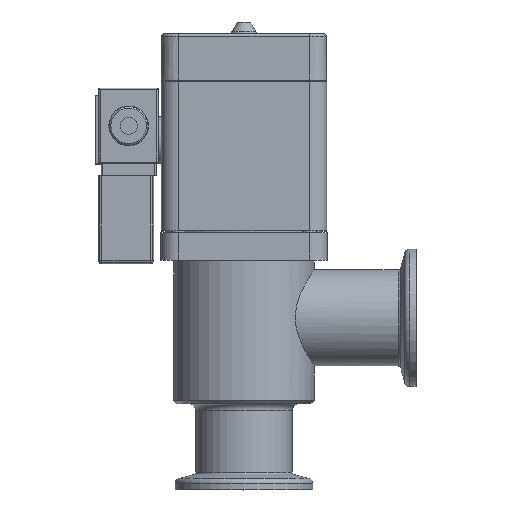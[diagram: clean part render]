
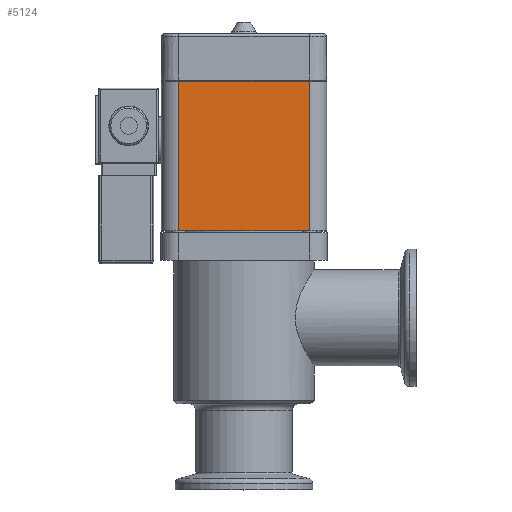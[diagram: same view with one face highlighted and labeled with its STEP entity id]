
A CAD part, top view. The second image highlights one B-rep face of the part: STEP entity #5124.
In plain terms, the highlighted planar face has unit normal (0, 0, 1) as drawn and (0, 0, -1) by its records, which use the part's own axes.
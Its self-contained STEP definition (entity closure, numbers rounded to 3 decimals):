
#5124=ADVANCED_FACE('',(#6179),#5788,.F.);
#5788=PLANE('',#15231);
#6179=FACE_OUTER_BOUND('',#6727,.T.);
#6727=EDGE_LOOP('',(#7946,#7947,#7948,#7949));
#7946=ORIENTED_EDGE('',*,*,#11904,.T.);
#7947=ORIENTED_EDGE('',*,*,#11911,.F.);
#7948=ORIENTED_EDGE('',*,*,#11886,.F.);
#7949=ORIENTED_EDGE('',*,*,#11910,.T.);
#10744=VERTEX_POINT('',#20195);
#10745=VERTEX_POINT('',#20197);
#10761=VERTEX_POINT('',#20231);
#10762=VERTEX_POINT('',#20233);
#11886=EDGE_CURVE('',#10744,#10745,#13350,.T.);
#11904=EDGE_CURVE('',#10762,#10761,#13355,.T.);
#11910=EDGE_CURVE('',#10744,#10762,#13356,.T.);
#11911=EDGE_CURVE('',#10745,#10761,#13357,.T.);
#13350=LINE('',#20196,#14272);
#13355=LINE('',#20232,#14277);
#13356=LINE('',#20244,#14278);
#13357=LINE('',#20246,#14279);
#14272=VECTOR('',#16679,1.);
#14277=VECTOR('',#16712,1.);
#14278=VECTOR('',#16725,1.);
#14279=VECTOR('',#16728,1.);
#15231=AXIS2_PLACEMENT_3D('',#20247,#16729,#16730);
#16679=DIRECTION('',(-1.,0.,0.));
#16712=DIRECTION('',(-1.,0.,0.));
#16725=DIRECTION('',(0.,-1.,0.));
#16728=DIRECTION('',(0.,-1.,0.));
#16729=DIRECTION('',(0.,0.,1.));
#16730=DIRECTION('',(1.,0.,0.));
#20195=CARTESIAN_POINT('',(19.,43.3,-24.));
#20196=CARTESIAN_POINT('',(19.,43.3,-24.));
#20197=CARTESIAN_POINT('',(-19.,43.3,-24.));
#20231=CARTESIAN_POINT('',(-19.,0.,-24.));
#20232=CARTESIAN_POINT('',(19.,0.,-24.));
#20233=CARTESIAN_POINT('',(19.,0.,-24.));
#20244=CARTESIAN_POINT('',(19.,43.3,-24.));
#20246=CARTESIAN_POINT('',(-19.,43.3,-24.));
#20247=CARTESIAN_POINT('',(19.,43.3,-24.));
